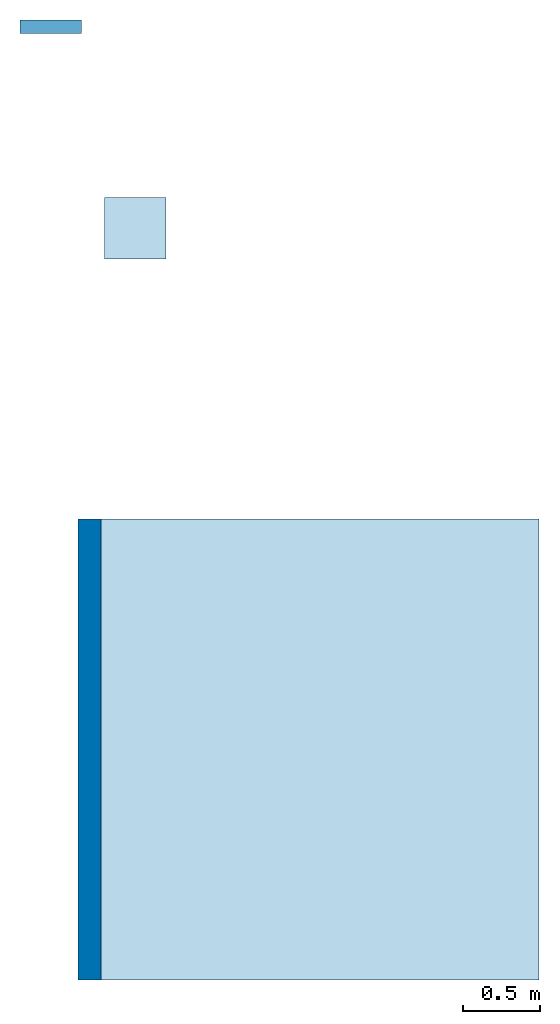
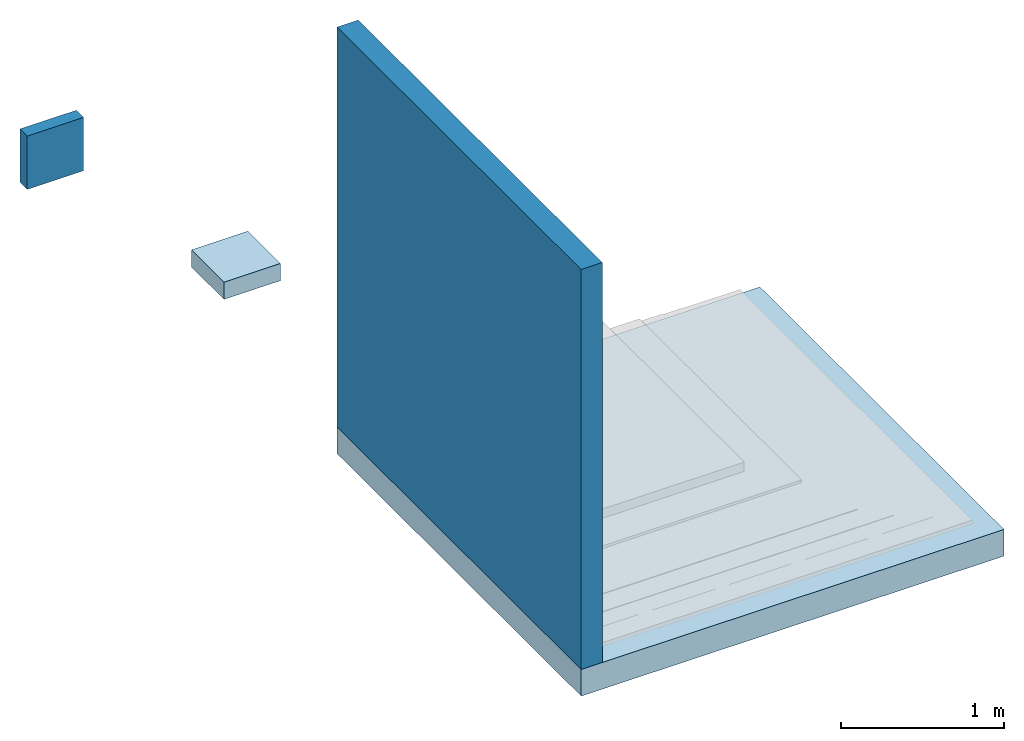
# One storey, part 1 of 2: 2 slabs, 2 walls.
"""IFC2X3 building model written with IfcOpenShell, lengths in metres."""

from ifc_helpers import new_model, entity, si_unit, converted_unit, derived_unit, direction, frame, frame_2d, origin, origin_2d_with_axis, place, context, subcontext, project, spatial, rectangle, extrude, material, layer, layer_set, layer_usage, type_object, element, save


model = new_model("IFC2X3")

# Units and contexts
model_context = context("Model", 3, precision=1e-05, world=origin(), true_north=direction((6.123031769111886e-17, 1.0)))
body_context = subcontext(model_context, "Body", "Model", "MODEL_VIEW")
ifc_project = project(units=[si_unit("LENGTHUNIT", "METRE"), si_unit("AREAUNIT", "SQUARE_METRE"), si_unit("VOLUMEUNIT", "CUBIC_METRE"), converted_unit("PLANEANGLEUNIT", "DEGREE", entity("IfcRatioMeasure", 0.017453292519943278), si_unit("PLANEANGLEUNIT", "RADIAN"), dimensions=[0, 0, 0, 0, 0, 0, 0]), si_unit("MASSUNIT", "GRAM", prefix="KILO"), derived_unit("MASSDENSITYUNIT", [(si_unit("MASSUNIT", "GRAM", prefix="KILO"), 1), (si_unit("LENGTHUNIT", "METRE"), -3)]), derived_unit("IONCONCENTRATIONUNIT", [(si_unit("MASSUNIT", "GRAM", prefix="KILO"), 1), (si_unit("LENGTHUNIT", "METRE"), -3)]), derived_unit("MOMENTOFINERTIAUNIT", [(si_unit("LENGTHUNIT", "METRE"), 4)]), si_unit("TIMEUNIT", "SECOND"), si_unit("FREQUENCYUNIT", "HERTZ"), si_unit("THERMODYNAMICTEMPERATUREUNIT", "DEGREE_CELSIUS"), derived_unit("THERMALTRANSMITTANCEUNIT", [(si_unit("MASSUNIT", "GRAM", prefix="KILO"), 1), (si_unit("THERMODYNAMICTEMPERATUREUNIT", "KELVIN"), -1), (si_unit("TIMEUNIT", "SECOND"), -3)]), derived_unit("THERMALCONDUCTANCEUNIT", [(si_unit("MASSUNIT", "GRAM", prefix="KILO"), 1), (si_unit("THERMODYNAMICTEMPERATUREUNIT", "KELVIN"), -1), (si_unit("TIMEUNIT", "SECOND"), -3), (si_unit("LENGTHUNIT", "METRE"), 1)]), derived_unit("VOLUMETRICFLOWRATEUNIT", [(si_unit("LENGTHUNIT", "METRE"), 3), (si_unit("TIMEUNIT", "SECOND"), -1)]), derived_unit("MASSFLOWRATEUNIT", [(si_unit("MASSUNIT", "GRAM", prefix="KILO"), 1), (si_unit("TIMEUNIT", "SECOND"), -1)]), derived_unit("ROTATIONALFREQUENCYUNIT", [(si_unit("TIMEUNIT", "SECOND"), -1)]), si_unit("ELECTRICCURRENTUNIT", "AMPERE"), si_unit("ELECTRICVOLTAGEUNIT", "VOLT"), si_unit("POWERUNIT", "WATT"), si_unit("FORCEUNIT", "NEWTON", prefix="KILO"), si_unit("ILLUMINANCEUNIT", "LUX"), si_unit("LUMINOUSFLUXUNIT", "LUMEN"), si_unit("LUMINOUSINTENSITYUNIT", "CANDELA"), derived_unit("USERDEFINED", [(si_unit("MASSUNIT", "GRAM", prefix="KILO"), -1), (si_unit("LENGTHUNIT", "METRE"), -2), (si_unit("TIMEUNIT", "SECOND"), 3), (si_unit("LUMINOUSFLUXUNIT", "LUMEN"), 1)]), derived_unit("USERDEFINED", [(si_unit("MASSUNIT", "GRAM", prefix="KILO"), 1), (si_unit("TIMEUNIT", "SECOND"), -3), (si_unit("LENGTHUNIT", "METRE"), 3), (si_unit("ELECTRICCURRENTUNIT", "AMPERE"), -2)]), derived_unit("SOUNDPOWERUNIT", [(si_unit("MASSUNIT", "GRAM", prefix="KILO"), 1), (si_unit("TIMEUNIT", "SECOND"), -3), (si_unit("LENGTHUNIT", "METRE"), 2)]), derived_unit("SOUNDPRESSUREUNIT", [(si_unit("MASSUNIT", "GRAM", prefix="KILO"), 1), (si_unit("LENGTHUNIT", "METRE"), -1), (si_unit("TIMEUNIT", "SECOND"), -2)]), derived_unit("LINEARVELOCITYUNIT", [(si_unit("LENGTHUNIT", "METRE"), 1), (si_unit("TIMEUNIT", "SECOND"), -1)]), si_unit("PRESSUREUNIT", "PASCAL"), derived_unit("USERDEFINED", [(si_unit("MASSUNIT", "GRAM", prefix="KILO"), 1), (si_unit("LENGTHUNIT", "METRE"), -2), (si_unit("TIMEUNIT", "SECOND"), -2)]), derived_unit("LINEARFORCEUNIT", [(si_unit("MASSUNIT", "GRAM", prefix="KILO"), 1), (si_unit("TIMEUNIT", "SECOND"), -2)]), derived_unit("PLANARFORCEUNIT", [(si_unit("MASSUNIT", "GRAM", prefix="KILO"), 1), (si_unit("LENGTHUNIT", "METRE"), -1), (si_unit("TIMEUNIT", "SECOND"), -2)]), derived_unit("SPECIFICHEATCAPACITYUNIT", [(si_unit("THERMODYNAMICTEMPERATUREUNIT", "KELVIN"), -1), (si_unit("LENGTHUNIT", "METRE"), 2), (si_unit("TIMEUNIT", "SECOND"), -2)]), derived_unit("HEATINGVALUEUNIT", [(si_unit("LENGTHUNIT", "METRE"), 2), (si_unit("TIMEUNIT", "SECOND"), -2)]), derived_unit("VAPORPERMEABILITYUNIT", [(si_unit("LENGTHUNIT", "METRE"), -1), (si_unit("TIMEUNIT", "SECOND"), 1)]), derived_unit("DYNAMICVISCOSITYUNIT", [(si_unit("MASSUNIT", "GRAM", prefix="KILO"), 1), (si_unit("TIMEUNIT", "SECOND"), -1), (si_unit("LENGTHUNIT", "METRE"), -1)]), derived_unit("THERMALEXPANSIONCOEFFICIENTUNIT", [(si_unit("THERMODYNAMICTEMPERATUREUNIT", "KELVIN"), -1)]), derived_unit("MODULUSOFELASTICITYUNIT", [(si_unit("MASSUNIT", "GRAM", prefix="KILO"), 1), (si_unit("LENGTHUNIT", "METRE"), -1), (si_unit("TIMEUNIT", "SECOND"), -2)]), derived_unit("ISOTHERMALMOISTURECAPACITYUNIT", [(si_unit("LENGTHUNIT", "METRE"), 3), (si_unit("MASSUNIT", "GRAM", prefix="KILO"), -1)]), derived_unit("MOISTUREDIFFUSIVITYUNIT", [(si_unit("TIMEUNIT", "SECOND"), -1), (si_unit("LENGTHUNIT", "METRE"), 2)])], contexts=[model_context])

# Site, building, storey
site_placement = place(None, origin())
site = spatial("IfcSite", under=ifc_project, at=site_placement, Name="Default", CompositionType="ELEMENT")
building_placement = place(site_placement, origin())
building = spatial("IfcBuilding", under=site, at=building_placement, CompositionType="ELEMENT")
storey_placement = place(building_placement, frame((0.0, 0.0, -0.0025237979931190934)))
storey = spatial("IfcBuildingStorey", under=building, at=storey_placement, Name="ARQ Térreo", CompositionType="ELEMENT", Elevation=-0.0025237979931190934)

# Slabs
ifc_material_1 = material(Name="#concreto")
ifc_layer_1 = layer(ifc_material_1, 0.2)
ifc_layer_set_1 = layer_set([ifc_layer_1], Name="Piso:Piso:LAJE CONCRETO")
ifc_layer_usage_1 = layer_usage(ifc_layer_set_1, "AXIS3", "POSITIVE", 0.0)
slab_type_1 = type_object("IfcSlabType", Name="Piso:Piso:LAJE CONCRETO", PredefinedType="FLOOR", material=ifc_layer_set_1)
slab_1_placement = place(storey_placement, origin())
element("IfcSlab", 1, at=slab_1_placement, inside=storey, type_object=slab_type_1, material=ifc_layer_usage_1, Name="Piso:Piso:LAJE CONCRETO", ObjectType="Piso:Piso:LAJE CONCRETO", PredefinedType="FLOOR", context=body_context, shape_type="SweptSolid", body=[
    extrude(rectangle(XDim=3.0000000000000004, YDim=3.0000000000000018, at=origin_2d_with_axis()), frame((0.9980295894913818, -1.354129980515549, 0.0), z_axis=(0.0, 0.0, -1.0), x_axis=(0.0, 1.0, 0.0)), (0.0, 0.0, 1.0), 0.2),
])
ifc_material_2 = material(Name="#proteção mecânica")
ifc_layer_2 = layer(ifc_material_2, 0.07)
ifc_material_3 = material(Name="#camada amortecedora")
ifc_layer_3 = layer(ifc_material_3, 0.02)
ifc_material_4 = material(Name="# Torodin 4mm - TIPO III - Classe A")
ifc_layer_4 = layer(ifc_material_4, 0.003999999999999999)
ifc_layer_5 = layer(ifc_material_4, 0.003999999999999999)
ifc_material_5 = material(Name="#Primer Adeflex")
ifc_layer_6 = layer(ifc_material_5, 0.0009999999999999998)
ifc_material_6 = material(Name="#argamassa")
ifc_layer_7 = layer(ifc_material_6, 0.03)
ifc_layer_set_2 = layer_set([ifc_layer_2, ifc_layer_3, ifc_layer_4, ifc_layer_5, ifc_layer_6, ifc_layer_7], Name="Piso:IMPH_T4PP+T4PP")
ifc_layer_usage_2 = layer_usage(ifc_layer_set_2, "AXIS3", "POSITIVE", 0.0)
slab_type_2 = type_object("IfcSlabType", Name="Piso:IMPH_T4PP+T4PP", PredefinedType="FLOOR", material=ifc_layer_set_2)
slab_2_placement = place(storey_placement, origin())
element("IfcSlab", 2, at=slab_2_placement, inside=storey, type_object=slab_type_2, material=ifc_layer_usage_2, Name="Piso:IMPH_T4PP+T4PP", ObjectType="Piso:IMPH_T4PP+T4PP", PredefinedType="FLOOR", context=body_context, shape_type="SweptSolid", body=[
    extrude(rectangle(XDim=0.4, YDim=0.4, at=origin_2d_with_axis()), frame((-0.12844527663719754, 2.036112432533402, 0.0), z_axis=(0.0, 0.0, -1.0), x_axis=(0.0, 1.0, 0.0)), (0.0, 0.0, 1.0), 0.129),
])

# Walls
ifc_layer_8 = layer(ifc_material_1, 0.14999999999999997)
ifc_layer_set_3 = layer_set([ifc_layer_8], Name="Parede básica:Parede básica:Parede Concreto")
ifc_layer_usage_3 = layer_usage(ifc_layer_set_3, "AXIS2", "NEGATIVE", 0.07499999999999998)
wall_type_1 = type_object("IfcWallType", Name="Parede básica:Parede básica:Parede Concreto", PredefinedType="STANDARD", material=ifc_layer_set_3)
wall_1_placement = place(storey_placement, frame((-0.4269704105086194, 0.14587001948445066, 0.0), z_axis=(0.0, 0.0, 1.0), x_axis=(0.0, -1.0, 0.0)))
element("IfcWallStandardCase", 3, at=wall_1_placement, inside=storey, type_object=wall_type_1, material=ifc_layer_usage_3, Name="Parede básica:Parede Concreto", ObjectType="Parede básica:Parede Concreto", context=body_context, shape_type="SweptSolid", body=[
    extrude(rectangle(XDim=2.9999999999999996, YDim=0.15000000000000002, at=frame_2d((1.4999999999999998, 0.0), x_axis=(-1.0, 0.0))), origin(), (0.0, 0.0, 1.0), 2.9999999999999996),
])
ifc_layer_9 = layer(ifc_material_2, 0.07)
ifc_layer_10 = layer(ifc_material_4, 0.003999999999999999)
ifc_layer_11 = layer(ifc_material_4, 0.003999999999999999)
ifc_layer_12 = layer(ifc_material_5, 0.0009999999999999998)
ifc_layer_13 = layer(ifc_material_6, 0.01)
ifc_layer_set_4 = layer_set([ifc_layer_9, ifc_layer_10, ifc_layer_11, ifc_layer_12, ifc_layer_13], Name="Parede básica:IMPV_T4PP+T4PP")
ifc_layer_usage_4 = layer_usage(ifc_layer_set_4, "AXIS2", "NEGATIVE", 0.044500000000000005)
wall_type_2 = type_object("IfcWallType", Name="Parede básica:IMPV_T4PP+T4PP", PredefinedType="STANDARD", material=ifc_layer_set_4)
wall_2_placement = place(storey_placement, frame((-0.47845796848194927, 3.345870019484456, 0.0), z_axis=(0.0, 0.0, 1.0), x_axis=(-1.0, 0.0, 0.0)))
element("IfcWallStandardCase", 4, at=wall_2_placement, inside=storey, type_object=wall_type_2, material=ifc_layer_usage_4, Name="Parede básica:IMPV_T4PP", ObjectType="Parede básica:IMPV_T4PP", context=body_context, shape_type="SweptSolid", body=[
    extrude(rectangle(XDim=0.3999999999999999, YDim=0.08900000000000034, at=frame_2d((0.19999999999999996, -4.163336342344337e-17), x_axis=(-1.0, 0.0))), origin(), (0.0, 0.0, 1.0), 0.4),
])

save(model, "model.ifc")
